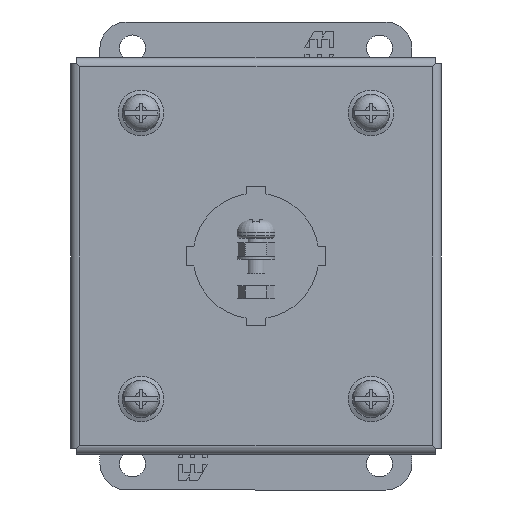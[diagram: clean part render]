
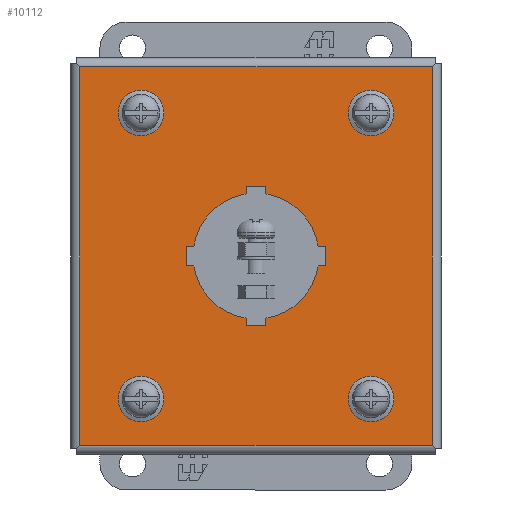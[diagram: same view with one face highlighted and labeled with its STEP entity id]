
A CAD part, front view. The second image highlights one B-rep face of the part: STEP entity #10112.
In plain terms, the highlighted planar face has unit normal (0, -1, 0) as drawn and (0, 1, 0) by its records, which use the part's own axes.
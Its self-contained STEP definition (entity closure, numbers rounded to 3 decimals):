
#394=LINE('',#14486,#1276);
#395=LINE('',#14488,#1277);
#396=LINE('',#14490,#1278);
#397=LINE('',#14494,#1279);
#398=LINE('',#14496,#1280);
#399=LINE('',#14498,#1281);
#400=LINE('',#14502,#1282);
#401=LINE('',#14504,#1283);
#402=LINE('',#14506,#1284);
#403=LINE('',#14510,#1285);
#404=LINE('',#14512,#1286);
#405=LINE('',#14514,#1287);
#406=LINE('',#14523,#1288);
#407=LINE('',#14526,#1289);
#408=LINE('',#14528,#1290);
#409=LINE('',#14530,#1291);
#1276=VECTOR('',#11888,1000.);
#1277=VECTOR('',#11889,1000.);
#1278=VECTOR('',#11890,1000.);
#1279=VECTOR('',#11893,1000.);
#1280=VECTOR('',#11894,1000.);
#1281=VECTOR('',#11895,1000.);
#1282=VECTOR('',#11898,1000.);
#1283=VECTOR('',#11899,1000.);
#1284=VECTOR('',#11900,1000.);
#1285=VECTOR('',#11903,1000.);
#1286=VECTOR('',#11904,1000.);
#1287=VECTOR('',#11905,1000.);
#1288=VECTOR('',#11914,1000.);
#1289=VECTOR('',#11915,1000.);
#1290=VECTOR('',#11916,1000.);
#1291=VECTOR('',#11917,1000.);
#2854=ORIENTED_EDGE('',*,*,#5737,.T.);
#2855=ORIENTED_EDGE('',*,*,#5738,.T.);
#2856=ORIENTED_EDGE('',*,*,#5739,.T.);
#2857=ORIENTED_EDGE('',*,*,#5740,.T.);
#2858=ORIENTED_EDGE('',*,*,#5741,.T.);
#2859=ORIENTED_EDGE('',*,*,#5742,.T.);
#2860=ORIENTED_EDGE('',*,*,#5743,.T.);
#2861=ORIENTED_EDGE('',*,*,#5744,.T.);
#2862=ORIENTED_EDGE('',*,*,#5745,.T.);
#2863=ORIENTED_EDGE('',*,*,#5746,.T.);
#2864=ORIENTED_EDGE('',*,*,#5747,.T.);
#2865=ORIENTED_EDGE('',*,*,#5748,.T.);
#2866=ORIENTED_EDGE('',*,*,#5749,.T.);
#2867=ORIENTED_EDGE('',*,*,#5750,.T.);
#2868=ORIENTED_EDGE('',*,*,#5751,.T.);
#2869=ORIENTED_EDGE('',*,*,#5752,.T.);
#2870=ORIENTED_EDGE('',*,*,#5753,.T.);
#2871=ORIENTED_EDGE('',*,*,#5754,.T.);
#2872=ORIENTED_EDGE('',*,*,#5755,.T.);
#2873=ORIENTED_EDGE('',*,*,#5756,.T.);
#2874=ORIENTED_EDGE('',*,*,#5757,.F.);
#2875=ORIENTED_EDGE('',*,*,#5758,.T.);
#2876=ORIENTED_EDGE('',*,*,#5759,.F.);
#2877=ORIENTED_EDGE('',*,*,#5760,.F.);
#5737=EDGE_CURVE('',#7207,#7208,#8138,.T.);
#5738=EDGE_CURVE('',#7208,#7209,#394,.T.);
#5739=EDGE_CURVE('',#7209,#7210,#395,.T.);
#5740=EDGE_CURVE('',#7210,#7211,#396,.T.);
#5741=EDGE_CURVE('',#7211,#7212,#8139,.T.);
#5742=EDGE_CURVE('',#7212,#7213,#397,.T.);
#5743=EDGE_CURVE('',#7213,#7214,#398,.T.);
#5744=EDGE_CURVE('',#7214,#7215,#399,.T.);
#5745=EDGE_CURVE('',#7215,#7216,#8140,.T.);
#5746=EDGE_CURVE('',#7216,#7217,#400,.T.);
#5747=EDGE_CURVE('',#7217,#7218,#401,.T.);
#5748=EDGE_CURVE('',#7218,#7219,#402,.T.);
#5749=EDGE_CURVE('',#7219,#7220,#8141,.T.);
#5750=EDGE_CURVE('',#7220,#7221,#403,.T.);
#5751=EDGE_CURVE('',#7221,#7222,#404,.T.);
#5752=EDGE_CURVE('',#7222,#7207,#405,.T.);
#5753=EDGE_CURVE('',#7223,#7223,#8142,.T.);
#5754=EDGE_CURVE('',#7224,#7224,#8143,.T.);
#5755=EDGE_CURVE('',#7225,#7225,#8144,.T.);
#5756=EDGE_CURVE('',#7226,#7226,#8145,.T.);
#5757=EDGE_CURVE('',#7227,#7228,#406,.T.);
#5758=EDGE_CURVE('',#7227,#7229,#407,.T.);
#5759=EDGE_CURVE('',#7230,#7229,#408,.T.);
#5760=EDGE_CURVE('',#7228,#7230,#409,.T.);
#7207=VERTEX_POINT('',#14484);
#7208=VERTEX_POINT('',#14485);
#7209=VERTEX_POINT('',#14487);
#7210=VERTEX_POINT('',#14489);
#7211=VERTEX_POINT('',#14491);
#7212=VERTEX_POINT('',#14493);
#7213=VERTEX_POINT('',#14495);
#7214=VERTEX_POINT('',#14497);
#7215=VERTEX_POINT('',#14499);
#7216=VERTEX_POINT('',#14501);
#7217=VERTEX_POINT('',#14503);
#7218=VERTEX_POINT('',#14505);
#7219=VERTEX_POINT('',#14507);
#7220=VERTEX_POINT('',#14509);
#7221=VERTEX_POINT('',#14511);
#7222=VERTEX_POINT('',#14513);
#7223=VERTEX_POINT('',#14516);
#7224=VERTEX_POINT('',#14518);
#7225=VERTEX_POINT('',#14520);
#7226=VERTEX_POINT('',#14522);
#7227=VERTEX_POINT('',#14524);
#7228=VERTEX_POINT('',#14525);
#7229=VERTEX_POINT('',#14527);
#7230=VERTEX_POINT('',#14529);
#8138=CIRCLE('',#10898,15.367);
#8139=CIRCLE('',#10899,15.367);
#8140=CIRCLE('',#10900,15.367);
#8141=CIRCLE('',#10901,15.367);
#8142=CIRCLE('',#10902,3.175);
#8143=CIRCLE('',#10903,3.175);
#8144=CIRCLE('',#10904,3.175);
#8145=CIRCLE('',#10905,3.175);
#8435=EDGE_LOOP('',(#2854,#2855,#2856,#2857,#2858,#2859,#2860,#2861,#2862,
#2863,#2864,#2865,#2866,#2867,#2868,#2869));
#8436=EDGE_LOOP('',(#2870));
#8437=EDGE_LOOP('',(#2871));
#8438=EDGE_LOOP('',(#2872));
#8439=EDGE_LOOP('',(#2873));
#8440=EDGE_LOOP('',(#2874,#2875,#2876,#2877));
#9129=FACE_BOUND('',#8435,.T.);
#9130=FACE_BOUND('',#8436,.T.);
#9131=FACE_BOUND('',#8437,.T.);
#9132=FACE_BOUND('',#8438,.T.);
#9133=FACE_BOUND('',#8439,.T.);
#9134=FACE_BOUND('',#8440,.T.);
#9775=PLANE('',#10897);
#10112=ADVANCED_FACE('',(#9129,#9130,#9131,#9132,#9133,#9134),#9775,.F.);
#10897=AXIS2_PLACEMENT_3D('',#14482,#11884,#11885);
#10898=AXIS2_PLACEMENT_3D('',#14483,#11886,#11887);
#10899=AXIS2_PLACEMENT_3D('',#14492,#11891,#11892);
#10900=AXIS2_PLACEMENT_3D('',#14500,#11896,#11897);
#10901=AXIS2_PLACEMENT_3D('',#14508,#11901,#11902);
#10902=AXIS2_PLACEMENT_3D('',#14515,#11906,#11907);
#10903=AXIS2_PLACEMENT_3D('',#14517,#11908,#11909);
#10904=AXIS2_PLACEMENT_3D('',#14519,#11910,#11911);
#10905=AXIS2_PLACEMENT_3D('',#14521,#11912,#11913);
#11884=DIRECTION('',(0.,-1.,0.));
#11885=DIRECTION('',(0.,0.,-1.));
#11886=DIRECTION('',(0.,-1.,0.));
#11887=DIRECTION('',(0.,0.,-1.));
#11888=DIRECTION('',(1.,0.,0.));
#11889=DIRECTION('',(0.,0.,1.));
#11890=DIRECTION('',(-1.,0.,0.));
#11891=DIRECTION('',(0.,-1.,0.));
#11892=DIRECTION('',(0.,0.,-1.));
#11893=DIRECTION('',(0.,0.,1.));
#11894=DIRECTION('',(-1.,0.,0.));
#11895=DIRECTION('',(0.,0.,-1.));
#11896=DIRECTION('',(0.,-1.,0.));
#11897=DIRECTION('',(0.,0.,-1.));
#11898=DIRECTION('',(-1.,0.,0.));
#11899=DIRECTION('',(0.,0.,-1.));
#11900=DIRECTION('',(1.,0.,0.));
#11901=DIRECTION('',(0.,-1.,0.));
#11902=DIRECTION('',(0.,0.,-1.));
#11903=DIRECTION('',(0.,0.,-1.));
#11904=DIRECTION('',(1.,0.,0.));
#11905=DIRECTION('',(0.,0.,1.));
#11906=DIRECTION('',(0.,-1.,0.));
#11907=DIRECTION('',(0.,0.,-1.));
#11908=DIRECTION('',(0.,-1.,0.));
#11909=DIRECTION('',(0.,0.,-1.));
#11910=DIRECTION('',(0.,-1.,0.));
#11911=DIRECTION('',(0.,0.,-1.));
#11912=DIRECTION('',(0.,-1.,0.));
#11913=DIRECTION('',(0.,0.,-1.));
#11914=DIRECTION('',(-1.,0.,0.));
#11915=DIRECTION('',(0.,0.,-1.));
#11916=DIRECTION('',(1.,0.,0.));
#11917=DIRECTION('',(0.,0.,-1.));
#14482=CARTESIAN_POINT('',(-45.237,0.,-48.412));
#14483=CARTESIAN_POINT('',(0.,0.,-0.025));
#14484=CARTESIAN_POINT('',(2.413,0.,-15.202));
#14485=CARTESIAN_POINT('',(15.176,0.,-2.438));
#14486=CARTESIAN_POINT('',(-45.237,0.,-2.438));
#14487=CARTESIAN_POINT('',(17.069,0.,-2.438));
#14488=CARTESIAN_POINT('',(17.069,0.,-48.412));
#14489=CARTESIAN_POINT('',(17.069,0.,2.388));
#14490=CARTESIAN_POINT('',(-45.237,0.,2.388));
#14491=CARTESIAN_POINT('',(15.176,0.,2.388));
#14492=CARTESIAN_POINT('',(0.,0.,-0.025));
#14493=CARTESIAN_POINT('',(2.413,0.,15.151));
#14494=CARTESIAN_POINT('',(2.413,0.,-48.412));
#14495=CARTESIAN_POINT('',(2.413,0.,17.043));
#14496=CARTESIAN_POINT('',(-45.237,0.,17.043));
#14497=CARTESIAN_POINT('',(-2.413,0.,17.043));
#14498=CARTESIAN_POINT('',(-2.413,0.,-48.412));
#14499=CARTESIAN_POINT('',(-2.413,0.,15.151));
#14500=CARTESIAN_POINT('',(0.,0.,-0.025));
#14501=CARTESIAN_POINT('',(-15.176,0.,2.388));
#14502=CARTESIAN_POINT('',(-45.237,0.,2.388));
#14503=CARTESIAN_POINT('',(-17.069,0.,2.388));
#14504=CARTESIAN_POINT('',(-17.069,0.,-48.412));
#14505=CARTESIAN_POINT('',(-17.069,0.,-2.438));
#14506=CARTESIAN_POINT('',(-45.237,0.,-2.438));
#14507=CARTESIAN_POINT('',(-15.176,0.,-2.438));
#14508=CARTESIAN_POINT('',(0.,0.,-0.025));
#14509=CARTESIAN_POINT('',(-2.413,0.,-15.202));
#14510=CARTESIAN_POINT('',(-2.413,0.,-48.412));
#14511=CARTESIAN_POINT('',(-2.413,0.,-17.094));
#14512=CARTESIAN_POINT('',(-45.237,0.,-17.094));
#14513=CARTESIAN_POINT('',(2.413,0.,-17.094));
#14514=CARTESIAN_POINT('',(2.413,0.,-48.412));
#14515=CARTESIAN_POINT('',(-28.092,0.,34.925));
#14516=CARTESIAN_POINT('',(-28.092,0.,31.75));
#14517=CARTESIAN_POINT('',(-28.092,0.,-34.925));
#14518=CARTESIAN_POINT('',(-28.092,0.,-38.1));
#14519=CARTESIAN_POINT('',(28.092,0.,-34.925));
#14520=CARTESIAN_POINT('',(28.092,0.,-38.1));
#14521=CARTESIAN_POINT('',(28.092,0.,34.925));
#14522=CARTESIAN_POINT('',(28.092,0.,31.75));
#14523=CARTESIAN_POINT('',(43.053,0.,46.228));
#14524=CARTESIAN_POINT('',(43.053,0.,46.228));
#14525=CARTESIAN_POINT('',(-43.053,0.,46.228));
#14526=CARTESIAN_POINT('',(43.053,0.,46.228));
#14527=CARTESIAN_POINT('',(43.053,0.,-46.228));
#14528=CARTESIAN_POINT('',(-43.053,0.,-46.228));
#14529=CARTESIAN_POINT('',(-43.053,0.,-46.228));
#14530=CARTESIAN_POINT('',(-43.053,0.,46.228));
